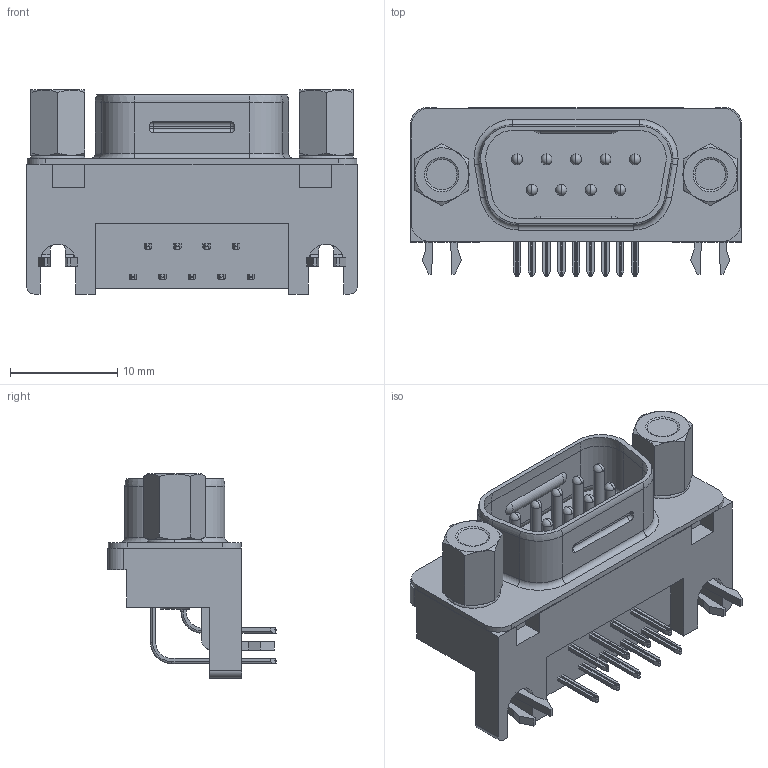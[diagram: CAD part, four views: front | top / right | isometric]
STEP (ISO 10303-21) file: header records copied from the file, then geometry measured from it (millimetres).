
FILE_DESCRIPTION (( 'STEP AP203' ), '1' );
FILE_NAME ('17LE-23090-27(D3CH)-FA.STEP', '2022-02-01T10:14:19', ( '' ), ( '' ), 'SwSTEP 2.0', 'SolidWorks 2018', '' );
FILE_SCHEMA (( 'CONFIG_CONTROL_DESIGN' ));
Length unit declared in the file: millimetre
Products named in the file (1): 17LE-23090-27(D3CH)-FA
Bounding box: 30.8 x 15.69 x 19 mm (x, y, z)
Volume: 2810.5 mm3; surface area: 3559.8 mm2
Topology: 1 solids, 5 shells, 755 faces, 2030 edges, 1277 vertices
Faces by surface type: plane 340, cylinder 275, torus 94, sphere 30, cone 16
Entity records: 23887 total; most frequent: CARTESIAN_POINT 4667, DIRECTION 4138, ORIENTED_EDGE 3992, EDGE_CURVE 1996, AXIS2_PLACEMENT_3D 1496, VERTEX_POINT 1273, LINE 1146, VECTOR 1146
